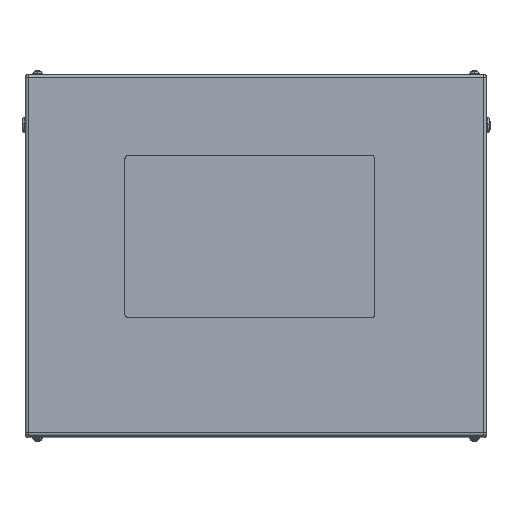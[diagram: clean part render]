
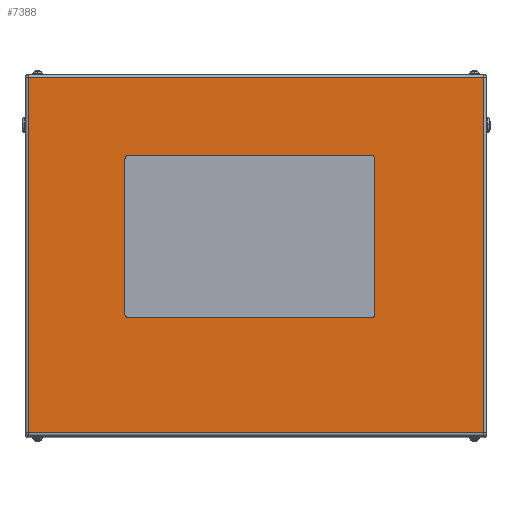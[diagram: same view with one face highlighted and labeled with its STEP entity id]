
A CAD part, top view. The second image highlights one B-rep face of the part: STEP entity #7388.
In plain terms, the highlighted planar face has unit normal (0, 0, 1).
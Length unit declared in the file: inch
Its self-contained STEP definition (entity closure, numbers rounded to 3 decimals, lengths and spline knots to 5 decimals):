
#105 = VERTEX_POINT ( 'NONE', #1622 ) ;
#287 = EDGE_CURVE ( 'NONE', #11097, #20356, #7990, .T. ) ;
#360 = AXIS2_PLACEMENT_3D ( 'NONE', #17455, #18935, #3054 ) ;
#391 = CARTESIAN_POINT ( 'NONE',  ( -18.234, 14.234, 32. ) ) ;
#455 = VERTEX_POINT ( 'NONE', #16540 ) ;
#890 = DIRECTION ( 'NONE',  ( -1., 0., 0. ) ) ;
#1325 = EDGE_CURVE ( 'NONE', #5692, #15454, #12841, .T. ) ;
#1622 = CARTESIAN_POINT ( 'NONE',  ( -18.234, -14.234, 32. ) ) ;
#1784 = PLANE ( 'NONE',  #2120 ) ;
#1960 = EDGE_LOOP ( 'NONE', ( #13465, #17201, #17419, #9118, #20584, #19084, #10707, #6829 ) ) ;
#2120 = AXIS2_PLACEMENT_3D ( 'NONE', #6403, #12427, #14585 ) ;
#2248 = CARTESIAN_POINT ( 'NONE',  ( -10.25, -4.75, 32. ) ) ;
#2482 = CARTESIAN_POINT ( 'NONE',  ( 9.25, 7.75, 32. ) ) ;
#2538 = DIRECTION ( 'NONE',  ( 1., 0., 0. ) ) ;
#2638 = VERTEX_POINT ( 'NONE', #15947 ) ;
#2864 = ORIENTED_EDGE ( 'NONE', *, *, #13784, .T. ) ;
#2895 = EDGE_CURVE ( 'NONE', #5316, #5692, #9446, .T. ) ;
#3028 = EDGE_CURVE ( 'NONE', #7378, #13584, #13461, .T. ) ;
#3054 = DIRECTION ( 'NONE',  ( 1., 0., 0. ) ) ;
#3442 = CARTESIAN_POINT ( 'NONE',  ( 9.5, 7.75, 32. ) ) ;
#3616 = VECTOR ( 'NONE', #17364, 39.37008 ) ;
#3853 = VERTEX_POINT ( 'NONE', #391 ) ;
#4210 = EDGE_LOOP ( 'NONE', ( #9430, #2864, #6138, #11031 ) ) ;
#4272 = LINE ( 'NONE', #10698, #5532 ) ;
#4533 = LINE ( 'NONE', #14285, #9947 ) ;
#4546 = EDGE_CURVE ( 'NONE', #20356, #7378, #10874, .T. ) ;
#5040 = FACE_BOUND ( 'NONE', #1960, .T. ) ;
#5316 = VERTEX_POINT ( 'NONE', #13237 ) ;
#5532 = VECTOR ( 'NONE', #12157, 39.37008 ) ;
#5556 = LINE ( 'NONE', #9117, #20191 ) ;
#5692 = VERTEX_POINT ( 'NONE', #19325 ) ;
#6011 = DIRECTION ( 'NONE',  ( 1., 0., 0. ) ) ;
#6138 = ORIENTED_EDGE ( 'NONE', *, *, #7764, .T. ) ;
#6403 = CARTESIAN_POINT ( 'NONE',  ( 18.5, 14.5, 32. ) ) ;
#6708 = EDGE_CURVE ( 'NONE', #2638, #3853, #5556, .T. ) ;
#6805 = CIRCLE ( 'NONE', #16547, 0.25 ) ;
#6829 = ORIENTED_EDGE ( 'NONE', *, *, #287, .F. ) ;
#7185 = DIRECTION ( 'NONE',  ( 0., 1., 0. ) ) ;
#7378 = VERTEX_POINT ( 'NONE', #3442 ) ;
#7388 = ADVANCED_FACE ( 'NONE', ( #5040, #14376 ), #1784, .F. ) ;
#7433 = DIRECTION ( 'NONE',  ( 0., -1., 0. ) ) ;
#7664 = CARTESIAN_POINT ( 'NONE',  ( 9.5, 7.75, 32. ) ) ;
#7764 = EDGE_CURVE ( 'NONE', #11332, #2638, #15294, .T. ) ;
#7990 = CIRCLE ( 'NONE', #13370, 0.25 ) ;
#8043 = EDGE_CURVE ( 'NONE', #15454, #455, #6805, .T. ) ;
#9046 = EDGE_CURVE ( 'NONE', #13584, #5316, #10265, .T. ) ;
#9117 = CARTESIAN_POINT ( 'NONE',  ( 18.5, 14.234, 32. ) ) ;
#9118 = ORIENTED_EDGE ( 'NONE', *, *, #2895, .F. ) ;
#9430 = ORIENTED_EDGE ( 'NONE', *, *, #12127, .T. ) ;
#9446 = CIRCLE ( 'NONE', #360, 0.25 ) ;
#9947 = VECTOR ( 'NONE', #6011, 39.37008 ) ;
#10008 = CARTESIAN_POINT ( 'NONE',  ( 9.25, 8., 32. ) ) ;
#10265 = LINE ( 'NONE', #19937, #15621 ) ;
#10321 = CARTESIAN_POINT ( 'NONE',  ( 9.25, -5., 32. ) ) ;
#10450 = DIRECTION ( 'NONE',  ( 0., 0., 1. ) ) ;
#10675 = CARTESIAN_POINT ( 'NONE',  ( 9.5, -4.75, 32. ) ) ;
#10698 = CARTESIAN_POINT ( 'NONE',  ( -10.25, -5., 32. ) ) ;
#10707 = ORIENTED_EDGE ( 'NONE', *, *, #4546, .F. ) ;
#10874 = LINE ( 'NONE', #7664, #3616 ) ;
#11031 = ORIENTED_EDGE ( 'NONE', *, *, #6708, .T. ) ;
#11097 = VERTEX_POINT ( 'NONE', #10321 ) ;
#11332 = VERTEX_POINT ( 'NONE', #19138 ) ;
#12127 = EDGE_CURVE ( 'NONE', #3853, #105, #15432, .T. ) ;
#12157 = DIRECTION ( 'NONE',  ( 1., 0., 0. ) ) ;
#12414 = EDGE_CURVE ( 'NONE', #455, #11097, #4272, .T. ) ;
#12427 = DIRECTION ( 'NONE',  ( 0., 0., -1. ) ) ;
#12568 = VECTOR ( 'NONE', #7433, 39.37008 ) ;
#12841 = LINE ( 'NONE', #19351, #17430 ) ;
#13237 = CARTESIAN_POINT ( 'NONE',  ( -10.25, 8., 32. ) ) ;
#13370 = AXIS2_PLACEMENT_3D ( 'NONE', #13768, #16613, #2538 ) ;
#13461 = CIRCLE ( 'NONE', #16159, 0.25 ) ;
#13465 = ORIENTED_EDGE ( 'NONE', *, *, #12414, .F. ) ;
#13584 = VERTEX_POINT ( 'NONE', #10008 ) ;
#13589 = DIRECTION ( 'NONE',  ( 1., 0., 0. ) ) ;
#13768 = CARTESIAN_POINT ( 'NONE',  ( 9.25, -4.75, 32. ) ) ;
#13784 = EDGE_CURVE ( 'NONE', #105, #11332, #4533, .T. ) ;
#14285 = CARTESIAN_POINT ( 'NONE',  ( 18.234, -14.234, 32. ) ) ;
#14296 = DIRECTION ( 'NONE',  ( 0., -1., 0. ) ) ;
#14376 = FACE_OUTER_BOUND ( 'NONE', #4210, .T. ) ;
#14585 = DIRECTION ( 'NONE',  ( -1., 0., 0. ) ) ;
#14858 = VECTOR ( 'NONE', #7185, 39.37008 ) ;
#14879 = DIRECTION ( 'NONE',  ( -1., 0., 0. ) ) ;
#15294 = LINE ( 'NONE', #17199, #14858 ) ;
#15432 = LINE ( 'NONE', #16913, #12568 ) ;
#15454 = VERTEX_POINT ( 'NONE', #19398 ) ;
#15525 = DIRECTION ( 'NONE',  ( -1., 0., 0. ) ) ;
#15621 = VECTOR ( 'NONE', #14879, 39.37008 ) ;
#15947 = CARTESIAN_POINT ( 'NONE',  ( 18.234, 14.234, 32. ) ) ;
#16159 = AXIS2_PLACEMENT_3D ( 'NONE', #2482, #18681, #890 ) ;
#16540 = CARTESIAN_POINT ( 'NONE',  ( -10.25, -5., 32. ) ) ;
#16547 = AXIS2_PLACEMENT_3D ( 'NONE', #2248, #10450, #13589 ) ;
#16613 = DIRECTION ( 'NONE',  ( 0., 0., 1. ) ) ;
#16913 = CARTESIAN_POINT ( 'NONE',  ( -18.234, 14.5, 32. ) ) ;
#17199 = CARTESIAN_POINT ( 'NONE',  ( 18.234, 14.5, 32. ) ) ;
#17201 = ORIENTED_EDGE ( 'NONE', *, *, #8043, .F. ) ;
#17364 = DIRECTION ( 'NONE',  ( 0., 1., 0. ) ) ;
#17419 = ORIENTED_EDGE ( 'NONE', *, *, #1325, .F. ) ;
#17430 = VECTOR ( 'NONE', #14296, 39.37008 ) ;
#17455 = CARTESIAN_POINT ( 'NONE',  ( -10.25, 7.75, 32. ) ) ;
#18681 = DIRECTION ( 'NONE',  ( 0., 0., 1. ) ) ;
#18935 = DIRECTION ( 'NONE',  ( 0., 0., 1. ) ) ;
#19084 = ORIENTED_EDGE ( 'NONE', *, *, #3028, .F. ) ;
#19138 = CARTESIAN_POINT ( 'NONE',  ( 18.234, -14.234, 32. ) ) ;
#19325 = CARTESIAN_POINT ( 'NONE',  ( -10.5, 7.75, 32. ) ) ;
#19351 = CARTESIAN_POINT ( 'NONE',  ( -10.5, 7.75, 32. ) ) ;
#19398 = CARTESIAN_POINT ( 'NONE',  ( -10.5, -4.75, 32. ) ) ;
#19937 = CARTESIAN_POINT ( 'NONE',  ( -10.25, 8., 32. ) ) ;
#20191 = VECTOR ( 'NONE', #15525, 39.37008 ) ;
#20356 = VERTEX_POINT ( 'NONE', #10675 ) ;
#20584 = ORIENTED_EDGE ( 'NONE', *, *, #9046, .F. ) ;
